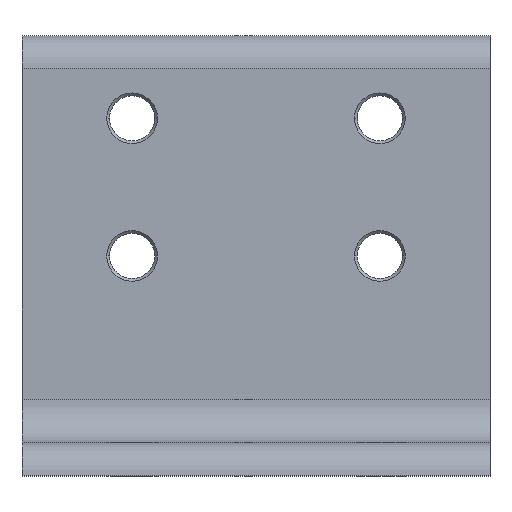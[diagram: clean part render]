
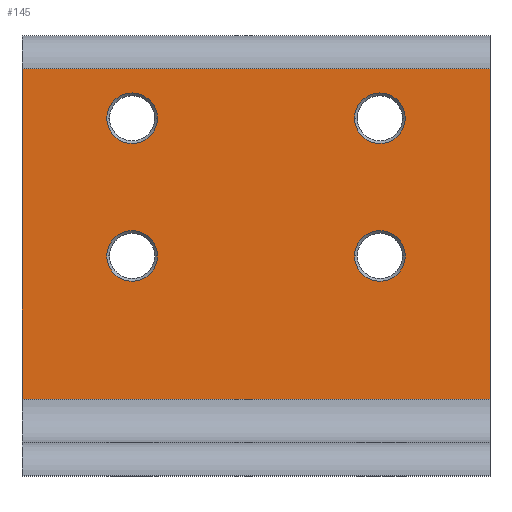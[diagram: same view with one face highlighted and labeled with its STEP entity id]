
A CAD part, top view. The second image highlights one B-rep face of the part: STEP entity #145.
In plain terms, the highlighted planar face has unit normal (0, 0, 1).
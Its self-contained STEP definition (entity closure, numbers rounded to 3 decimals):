
#4 = ORIENTED_EDGE ( 'NONE', *, *, #1207, .F. ) ;
#13 = AXIS2_PLACEMENT_3D ( 'NONE', #929, #283, #1043 ) ;
#19 = VECTOR ( 'NONE', #707, 1000. ) ;
#45 = CARTESIAN_POINT ( 'NONE',  ( 22.5, 40., -14. ) ) ;
#60 = EDGE_LOOP ( 'NONE', ( #4, #1223, #405, #1187 ) ) ;
#63 = CARTESIAN_POINT ( 'NONE',  ( -17.9, 40., -14. ) ) ;
#73 = CARTESIAN_POINT ( 'NONE',  ( -17.9, 65., -14. ) ) ;
#76 = EDGE_CURVE ( 'NONE', #1124, #650, #358, .T. ) ;
#83 = EDGE_LOOP ( 'NONE', ( #301, #1372 ) ) ;
#90 = DIRECTION ( 'NONE',  ( -1., 0., 0. ) ) ;
#94 = VERTEX_POINT ( 'NONE', #1345 ) ;
#107 = VERTEX_POINT ( 'NONE', #1253 ) ;
#120 = LINE ( 'NONE', #217, #704 ) ;
#132 = CARTESIAN_POINT ( 'NONE',  ( -22.5, 65., -14. ) ) ;
#137 = VERTEX_POINT ( 'NONE', #1072 ) ;
#142 = LINE ( 'NONE', #988, #1247 ) ;
#145 = ADVANCED_FACE ( 'NONE', ( #1351, #631, #259, #1079, #552 ), #435, .F. ) ;
#149 = EDGE_CURVE ( 'NONE', #830, #1105, #417, .T. ) ;
#160 = DIRECTION ( 'NONE',  ( -1., 0., 0. ) ) ;
#181 = CARTESIAN_POINT ( 'NONE',  ( 27.1, 40., -14. ) ) ;
#184 = AXIS2_PLACEMENT_3D ( 'NONE', #1161, #526, #1265 ) ;
#197 = CARTESIAN_POINT ( 'NONE',  ( 27.1, 65., -14. ) ) ;
#217 = CARTESIAN_POINT ( 'NONE',  ( 42.5, 80., -14. ) ) ;
#242 = ORIENTED_EDGE ( 'NONE', *, *, #842, .T. ) ;
#245 = DIRECTION ( 'NONE',  ( -1., 0., 0. ) ) ;
#259 = FACE_BOUND ( 'NONE', #1218, .T. ) ;
#283 = DIRECTION ( 'NONE',  ( 0., 0., -1. ) ) ;
#301 = ORIENTED_EDGE ( 'NONE', *, *, #1084, .T. ) ;
#308 = LINE ( 'NONE', #450, #19 ) ;
#322 = DIRECTION ( 'NONE',  ( 0., 0., -1. ) ) ;
#324 = ORIENTED_EDGE ( 'NONE', *, *, #149, .T. ) ;
#331 = DIRECTION ( 'NONE',  ( 1., 0., 0. ) ) ;
#334 = VERTEX_POINT ( 'NONE', #181 ) ;
#358 = CIRCLE ( 'NONE', #13, 4.6 ) ;
#368 = CARTESIAN_POINT ( 'NONE',  ( -22.5, 40., -14. ) ) ;
#383 = LINE ( 'NONE', #1088, #666 ) ;
#405 = ORIENTED_EDGE ( 'NONE', *, *, #1257, .T. ) ;
#417 = CIRCLE ( 'NONE', #738, 4.6 ) ;
#422 = CIRCLE ( 'NONE', #1344, 4.6 ) ;
#435 = PLANE ( 'NONE',  #803 ) ;
#450 = CARTESIAN_POINT ( 'NONE',  ( -42.5, 80., -14. ) ) ;
#457 = CARTESIAN_POINT ( 'NONE',  ( -22.5, 40., -14. ) ) ;
#466 = CIRCLE ( 'NONE', #589, 4.6 ) ;
#477 = DIRECTION ( 'NONE',  ( -1., 0., 0. ) ) ;
#486 = AXIS2_PLACEMENT_3D ( 'NONE', #1369, #737, #90 ) ;
#510 = EDGE_CURVE ( 'NONE', #650, #1124, #422, .T. ) ;
#526 = DIRECTION ( 'NONE',  ( 0., 0., -1. ) ) ;
#547 = CARTESIAN_POINT ( 'NONE',  ( -42.5, 80., -14. ) ) ;
#552 = FACE_OUTER_BOUND ( 'NONE', #60, .T. ) ;
#565 = DIRECTION ( 'NONE',  ( -1., 0., 0. ) ) ;
#572 = EDGE_LOOP ( 'NONE', ( #1075, #651 ) ) ;
#589 = AXIS2_PLACEMENT_3D ( 'NONE', #45, #799, #160 ) ;
#631 = FACE_BOUND ( 'NONE', #743, .T. ) ;
#639 = VERTEX_POINT ( 'NONE', #1289 ) ;
#646 = DIRECTION ( 'NONE',  ( -1., 0., 0. ) ) ;
#650 = VERTEX_POINT ( 'NONE', #748 ) ;
#651 = ORIENTED_EDGE ( 'NONE', *, *, #510, .T. ) ;
#666 = VECTOR ( 'NONE', #331, 1000. ) ;
#672 = ORIENTED_EDGE ( 'NONE', *, *, #1040, .T. ) ;
#681 = CIRCLE ( 'NONE', #486, 4.6 ) ;
#699 = CARTESIAN_POINT ( 'NONE',  ( -27.1, 40., -14. ) ) ;
#704 = VECTOR ( 'NONE', #856, 1000. ) ;
#707 = DIRECTION ( 'NONE',  ( 0., -1., 0. ) ) ;
#714 = VERTEX_POINT ( 'NONE', #197 ) ;
#726 = AXIS2_PLACEMENT_3D ( 'NONE', #457, #1201, #565 ) ;
#737 = DIRECTION ( 'NONE',  ( 0., 0., -1. ) ) ;
#738 = AXIS2_PLACEMENT_3D ( 'NONE', #368, #1117, #477 ) ;
#743 = EDGE_LOOP ( 'NONE', ( #672, #1206 ) ) ;
#748 = CARTESIAN_POINT ( 'NONE',  ( -27.1, 65., -14. ) ) ;
#799 = DIRECTION ( 'NONE',  ( 0., 0., -1. ) ) ;
#803 = AXIS2_PLACEMENT_3D ( 'NONE', #547, #1285, #646 ) ;
#813 = EDGE_CURVE ( 'NONE', #885, #334, #466, .T. ) ;
#820 = CARTESIAN_POINT ( 'NONE',  ( -42.5, 14., -14. ) ) ;
#830 = VERTEX_POINT ( 'NONE', #699 ) ;
#842 = EDGE_CURVE ( 'NONE', #1105, #830, #1005, .T. ) ;
#856 = DIRECTION ( 'NONE',  ( 0., -1., 0. ) ) ;
#859 = EDGE_CURVE ( 'NONE', #137, #107, #142, .T. ) ;
#883 = DIRECTION ( 'NONE',  ( 0., 0., -1. ) ) ;
#885 = VERTEX_POINT ( 'NONE', #1103 ) ;
#929 = CARTESIAN_POINT ( 'NONE',  ( -22.5, 65., -14. ) ) ;
#970 = CARTESIAN_POINT ( 'NONE',  ( 22.5, 65., -14. ) ) ;
#988 = CARTESIAN_POINT ( 'NONE',  ( -42.5, 74., -14. ) ) ;
#1005 = CIRCLE ( 'NONE', #726, 4.6 ) ;
#1020 = CIRCLE ( 'NONE', #1057, 4.6 ) ;
#1040 = EDGE_CURVE ( 'NONE', #714, #639, #1214, .T. ) ;
#1043 = DIRECTION ( 'NONE',  ( -1., 0., 0. ) ) ;
#1057 = AXIS2_PLACEMENT_3D ( 'NONE', #970, #322, #1078 ) ;
#1072 = CARTESIAN_POINT ( 'NONE',  ( 42.5, 74., -14. ) ) ;
#1075 = ORIENTED_EDGE ( 'NONE', *, *, #76, .T. ) ;
#1078 = DIRECTION ( 'NONE',  ( -1., 0., 0. ) ) ;
#1079 = FACE_BOUND ( 'NONE', #572, .T. ) ;
#1084 = EDGE_CURVE ( 'NONE', #334, #885, #681, .T. ) ;
#1088 = CARTESIAN_POINT ( 'NONE',  ( -42.5, 14., -14. ) ) ;
#1096 = DIRECTION ( 'NONE',  ( -1., 0., 0. ) ) ;
#1103 = CARTESIAN_POINT ( 'NONE',  ( 17.9, 40., -14. ) ) ;
#1105 = VERTEX_POINT ( 'NONE', #63 ) ;
#1117 = DIRECTION ( 'NONE',  ( 0., 0., -1. ) ) ;
#1124 = VERTEX_POINT ( 'NONE', #73 ) ;
#1125 = VERTEX_POINT ( 'NONE', #820 ) ;
#1161 = CARTESIAN_POINT ( 'NONE',  ( 22.5, 65., -14. ) ) ;
#1182 = EDGE_CURVE ( 'NONE', #639, #714, #1020, .T. ) ;
#1187 = ORIENTED_EDGE ( 'NONE', *, *, #1228, .T. ) ;
#1201 = DIRECTION ( 'NONE',  ( 0., 0., -1. ) ) ;
#1206 = ORIENTED_EDGE ( 'NONE', *, *, #1182, .T. ) ;
#1207 = EDGE_CURVE ( 'NONE', #137, #94, #120, .T. ) ;
#1214 = CIRCLE ( 'NONE', #184, 4.6 ) ;
#1218 = EDGE_LOOP ( 'NONE', ( #242, #324 ) ) ;
#1223 = ORIENTED_EDGE ( 'NONE', *, *, #859, .T. ) ;
#1228 = EDGE_CURVE ( 'NONE', #1125, #94, #383, .T. ) ;
#1247 = VECTOR ( 'NONE', #1096, 1000. ) ;
#1253 = CARTESIAN_POINT ( 'NONE',  ( -42.5, 74., -14. ) ) ;
#1257 = EDGE_CURVE ( 'NONE', #107, #1125, #308, .T. ) ;
#1265 = DIRECTION ( 'NONE',  ( -1., 0., 0. ) ) ;
#1285 = DIRECTION ( 'NONE',  ( 0., 0., -1. ) ) ;
#1289 = CARTESIAN_POINT ( 'NONE',  ( 17.9, 65., -14. ) ) ;
#1344 = AXIS2_PLACEMENT_3D ( 'NONE', #132, #883, #245 ) ;
#1345 = CARTESIAN_POINT ( 'NONE',  ( 42.5, 14., -14. ) ) ;
#1351 = FACE_BOUND ( 'NONE', #83, .T. ) ;
#1369 = CARTESIAN_POINT ( 'NONE',  ( 22.5, 40., -14. ) ) ;
#1372 = ORIENTED_EDGE ( 'NONE', *, *, #813, .T. ) ;
